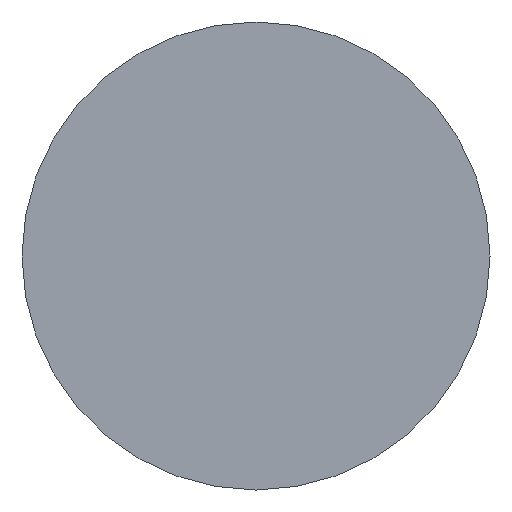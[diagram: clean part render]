
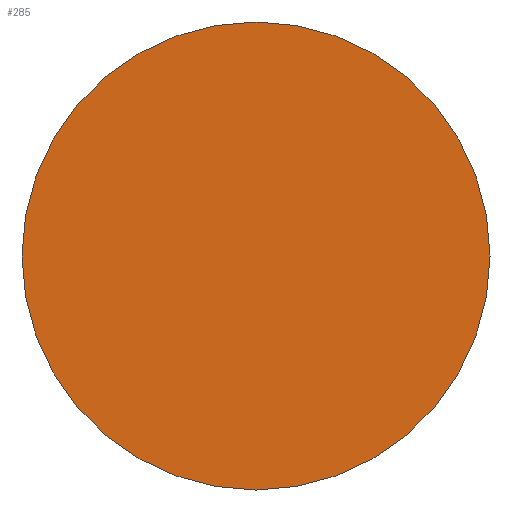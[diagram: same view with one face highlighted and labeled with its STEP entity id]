
A CAD part, left-side view. The second image highlights one B-rep face of the part: STEP entity #285.
In plain terms, the highlighted planar face has unit normal (-1, 0, 0).
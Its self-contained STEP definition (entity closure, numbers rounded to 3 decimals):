
#20 = CARTESIAN_POINT ( 'NONE',  ( -2.66, 0., 0. ) ) ;
#21 = DIRECTION ( 'NONE',  ( -1., 0., 0. ) ) ;
#22 = DIRECTION ( 'NONE',  ( 0., 0., 1. ) ) ;
#58 = CARTESIAN_POINT ( 'NONE',  ( -2.66, 0., 0. ) ) ;
#59 = DIRECTION ( 'NONE',  ( -1., 0., 0. ) ) ;
#60 = DIRECTION ( 'NONE',  ( 0., 0., 1. ) ) ;
#72 = AXIS2_PLACEMENT_3D ( 'NONE', #58, #59, #60 ) ;
#74 = AXIS2_PLACEMENT_3D ( 'NONE', #208, #209, #210 ) ;
#75 = CIRCLE ( 'NONE', #72, 0.635 ) ;
#99 = CIRCLE ( 'NONE', #102, 0.635 ) ;
#102 = AXIS2_PLACEMENT_3D ( 'NONE', #20, #21, #22 ) ;
#198 = CARTESIAN_POINT ( 'NONE',  ( -2.66, 0., 0.635 ) ) ;
#204 = FACE_OUTER_BOUND ( 'NONE', #229, .T. ) ;
#205 = PLANE ( 'NONE',  #74 ) ;
#208 = CARTESIAN_POINT ( 'NONE',  ( -2.66, 0., 0. ) ) ;
#209 = DIRECTION ( 'NONE',  ( -1., 0., 0. ) ) ;
#210 = DIRECTION ( 'NONE',  ( 0., 0., 1. ) ) ;
#215 = VERTEX_POINT ( 'NONE', #234 ) ;
#229 = EDGE_LOOP ( 'NONE', ( #324, #325 ) ) ;
#234 = CARTESIAN_POINT ( 'NONE',  ( -2.66, 0., -0.635 ) ) ;
#241 = VERTEX_POINT ( 'NONE', #198 ) ;
#285 = ADVANCED_FACE ( 'NONE', ( #204 ), #205, .T. ) ;
#287 = EDGE_CURVE ( 'NONE', #215, #241, #75, .T. ) ;
#324 = ORIENTED_EDGE ( 'NONE', *, *, #287, .T. ) ;
#325 = ORIENTED_EDGE ( 'NONE', *, *, #330, .T. ) ;
#330 = EDGE_CURVE ( 'NONE', #241, #215, #99, .T. ) ;
